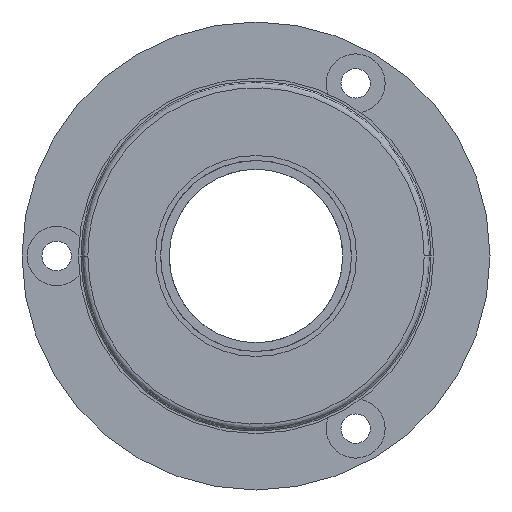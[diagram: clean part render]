
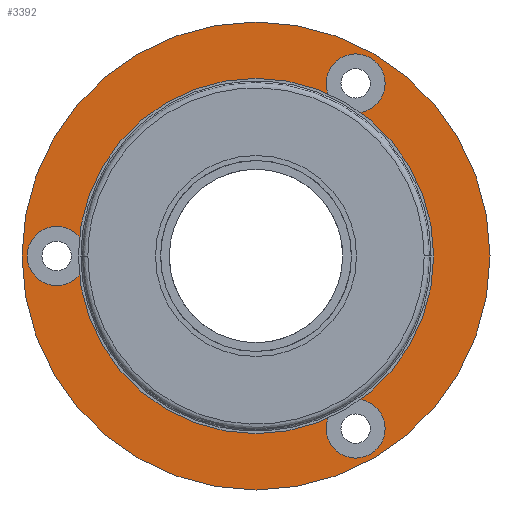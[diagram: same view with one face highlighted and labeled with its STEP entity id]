
A CAD part, left-side view. The second image highlights one B-rep face of the part: STEP entity #3392.
In plain terms, the highlighted planar face has unit normal (-1, 0, 0).
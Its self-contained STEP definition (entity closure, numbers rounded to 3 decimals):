
#40 = DIRECTION ( 'NONE',  ( 0., -1., 0. ) ) ;
#167 = EDGE_CURVE ( 'NONE', #12699, #6527, #11716, .T. ) ;
#832 = CIRCLE ( 'NONE', #40883, 13.5 ) ;
#906 = CARTESIAN_POINT ( 'NONE',  ( 2.8, 7.5, 0. ) ) ;
#1235 = EDGE_CURVE ( 'NONE', #26223, #44983, #26943, .T. ) ;
#2596 = DIRECTION ( 'NONE',  ( 1., 0., 0. ) ) ;
#2943 = ORIENTED_EDGE ( 'NONE', *, *, #47585, .T. ) ;
#3120 = EDGE_CURVE ( 'NONE', #14510, #29277, #832, .T. ) ;
#3162 = DIRECTION ( 'NONE',  ( 0., 1., 0. ) ) ;
#3392 = ADVANCED_FACE ( 'NONE', ( #36632, #38924, #20507, #6059, #43539 ), #12481, .T. ) ;
#3396 = VERTEX_POINT ( 'NONE', #5067 ) ;
#3761 = ORIENTED_EDGE ( 'NONE', *, *, #41961, .T. ) ;
#3924 = CARTESIAN_POINT ( 'NONE',  ( 2.8, -5.75, 9.959 ) ) ;
#4072 = CARTESIAN_POINT ( 'NONE',  ( 2.8, 7.5, 0. ) ) ;
#4230 = AXIS2_PLACEMENT_3D ( 'NONE', #10628, #43964, #36430 ) ;
#4916 = CARTESIAN_POINT ( 'NONE',  ( 2.8, 0., 0. ) ) ;
#4954 = EDGE_LOOP ( 'NONE', ( #3761, #21793 ) ) ;
#5067 = CARTESIAN_POINT ( 'NONE',  ( 2.8, -7.5, 0. ) ) ;
#5094 = VERTEX_POINT ( 'NONE', #14509 ) ;
#5457 = ORIENTED_EDGE ( 'NONE', *, *, #5736, .T. ) ;
#5736 = EDGE_CURVE ( 'NONE', #6527, #12699, #33597, .T. ) ;
#6059 = FACE_BOUND ( 'NONE', #4954, .T. ) ;
#6381 = DIRECTION ( 'NONE',  ( 1., 0., 0. ) ) ;
#6527 = VERTEX_POINT ( 'NONE', #6873 ) ;
#6800 = DIRECTION ( 'NONE',  ( 0., -1., 0. ) ) ;
#6873 = CARTESIAN_POINT ( 'NONE',  ( 2.8, 9.8, 0. ) ) ;
#7412 = CARTESIAN_POINT ( 'NONE',  ( 2.8, -5.75, 9.959 ) ) ;
#8100 = CIRCLE ( 'NONE', #41868, 1.7 ) ;
#8163 = ORIENTED_EDGE ( 'NONE', *, *, #12903, .T. ) ;
#9393 = DIRECTION ( 'NONE',  ( 1., 0., 0. ) ) ;
#10560 = DIRECTION ( 'NONE',  ( 0., -1., 0. ) ) ;
#10628 = CARTESIAN_POINT ( 'NONE',  ( 2.8, 11.5, 0. ) ) ;
#10641 = CIRCLE ( 'NONE', #21664, 1.7 ) ;
#10667 = EDGE_CURVE ( 'NONE', #3396, #20719, #12325, .T. ) ;
#11343 = EDGE_LOOP ( 'NONE', ( #2943, #12584 ) ) ;
#11716 = CIRCLE ( 'NONE', #17687, 1.7 ) ;
#12325 = CIRCLE ( 'NONE', #20856, 7.5 ) ;
#12481 = PLANE ( 'NONE',  #30097 ) ;
#12584 = ORIENTED_EDGE ( 'NONE', *, *, #3120, .T. ) ;
#12699 = VERTEX_POINT ( 'NONE', #18458 ) ;
#12903 = EDGE_CURVE ( 'NONE', #5094, #45525, #8100, .T. ) ;
#13999 = CARTESIAN_POINT ( 'NONE',  ( 2.8, 0., 0. ) ) ;
#14509 = CARTESIAN_POINT ( 'NONE',  ( 2.8, -7.45, 9.959 ) ) ;
#14510 = VERTEX_POINT ( 'NONE', #23339 ) ;
#15054 = CARTESIAN_POINT ( 'NONE',  ( 2.8, -4.05, -9.959 ) ) ;
#15915 = ORIENTED_EDGE ( 'NONE', *, *, #39482, .T. ) ;
#16339 = DIRECTION ( 'NONE',  ( 0., -1., 0. ) ) ;
#17595 = CARTESIAN_POINT ( 'NONE',  ( 2.8, 0., 0. ) ) ;
#17687 = AXIS2_PLACEMENT_3D ( 'NONE', #47073, #17952, #6800 ) ;
#17720 = DIRECTION ( 'NONE',  ( 0., 1., 0. ) ) ;
#17952 = DIRECTION ( 'NONE',  ( 1., 0., 0. ) ) ;
#18458 = CARTESIAN_POINT ( 'NONE',  ( 2.8, 13.2, 0. ) ) ;
#18908 = EDGE_LOOP ( 'NONE', ( #8163, #15915 ) ) ;
#19366 = CIRCLE ( 'NONE', #23802, 1.7 ) ;
#20507 = FACE_BOUND ( 'NONE', #18908, .T. ) ;
#20719 = VERTEX_POINT ( 'NONE', #4072 ) ;
#20856 = AXIS2_PLACEMENT_3D ( 'NONE', #17595, #2596, #31932 ) ;
#21050 = ORIENTED_EDGE ( 'NONE', *, *, #10667, .T. ) ;
#21405 = AXIS2_PLACEMENT_3D ( 'NONE', #4916, #30894, #34450 ) ;
#21664 = AXIS2_PLACEMENT_3D ( 'NONE', #43735, #6381, #10560 ) ;
#21793 = ORIENTED_EDGE ( 'NONE', *, *, #1235, .T. ) ;
#22617 = DIRECTION ( 'NONE',  ( 0., -1., 0. ) ) ;
#23283 = DIRECTION ( 'NONE',  ( 0., -1., 0. ) ) ;
#23339 = CARTESIAN_POINT ( 'NONE',  ( 2.8, -13.5, 0. ) ) ;
#23802 = AXIS2_PLACEMENT_3D ( 'NONE', #7412, #33381, #40 ) ;
#24670 = ORIENTED_EDGE ( 'NONE', *, *, #167, .T. ) ;
#26223 = VERTEX_POINT ( 'NONE', #15054 ) ;
#26943 = CIRCLE ( 'NONE', #34995, 1.7 ) ;
#29277 = VERTEX_POINT ( 'NONE', #38270 ) ;
#30097 = AXIS2_PLACEMENT_3D ( 'NONE', #906, #34271, #23283 ) ;
#30581 = CIRCLE ( 'NONE', #33982, 13.5 ) ;
#30894 = DIRECTION ( 'NONE',  ( 1., 0., 0. ) ) ;
#31162 = EDGE_CURVE ( 'NONE', #20719, #3396, #46698, .T. ) ;
#31932 = DIRECTION ( 'NONE',  ( 0., 1., 0. ) ) ;
#33381 = DIRECTION ( 'NONE',  ( 1., 0., 0. ) ) ;
#33597 = CIRCLE ( 'NONE', #4230, 1.7 ) ;
#33982 = AXIS2_PLACEMENT_3D ( 'NONE', #13999, #39781, #17720 ) ;
#34271 = DIRECTION ( 'NONE',  ( -1., 0., 0. ) ) ;
#34450 = DIRECTION ( 'NONE',  ( 0., 1., 0. ) ) ;
#34941 = CARTESIAN_POINT ( 'NONE',  ( 2.8, -4.05, 9.959 ) ) ;
#34995 = AXIS2_PLACEMENT_3D ( 'NONE', #38861, #9393, #16339 ) ;
#36430 = DIRECTION ( 'NONE',  ( 0., -1., 0. ) ) ;
#36632 = FACE_OUTER_BOUND ( 'NONE', #11343, .T. ) ;
#37960 = ORIENTED_EDGE ( 'NONE', *, *, #31162, .T. ) ;
#38270 = CARTESIAN_POINT ( 'NONE',  ( 2.8, 13.5, 0. ) ) ;
#38861 = CARTESIAN_POINT ( 'NONE',  ( 2.8, -5.75, -9.959 ) ) ;
#38924 = FACE_BOUND ( 'NONE', #40620, .T. ) ;
#39482 = EDGE_CURVE ( 'NONE', #45525, #5094, #19366, .T. ) ;
#39781 = DIRECTION ( 'NONE',  ( -1., 0., 0. ) ) ;
#40620 = EDGE_LOOP ( 'NONE', ( #37960, #21050 ) ) ;
#40883 = AXIS2_PLACEMENT_3D ( 'NONE', #43597, #47318, #3162 ) ;
#40975 = DIRECTION ( 'NONE',  ( 1., 0., 0. ) ) ;
#41868 = AXIS2_PLACEMENT_3D ( 'NONE', #3924, #40975, #22617 ) ;
#41961 = EDGE_CURVE ( 'NONE', #44983, #26223, #10641, .T. ) ;
#43539 = FACE_BOUND ( 'NONE', #43705, .T. ) ;
#43597 = CARTESIAN_POINT ( 'NONE',  ( 2.8, 0., 0. ) ) ;
#43705 = EDGE_LOOP ( 'NONE', ( #5457, #24670 ) ) ;
#43735 = CARTESIAN_POINT ( 'NONE',  ( 2.8, -5.75, -9.959 ) ) ;
#43964 = DIRECTION ( 'NONE',  ( 1., 0., 0. ) ) ;
#44983 = VERTEX_POINT ( 'NONE', #46721 ) ;
#45525 = VERTEX_POINT ( 'NONE', #34941 ) ;
#46698 = CIRCLE ( 'NONE', #21405, 7.5 ) ;
#46721 = CARTESIAN_POINT ( 'NONE',  ( 2.8, -7.45, -9.959 ) ) ;
#47073 = CARTESIAN_POINT ( 'NONE',  ( 2.8, 11.5, 0. ) ) ;
#47318 = DIRECTION ( 'NONE',  ( -1., 0., 0. ) ) ;
#47585 = EDGE_CURVE ( 'NONE', #29277, #14510, #30581, .T. ) ;
